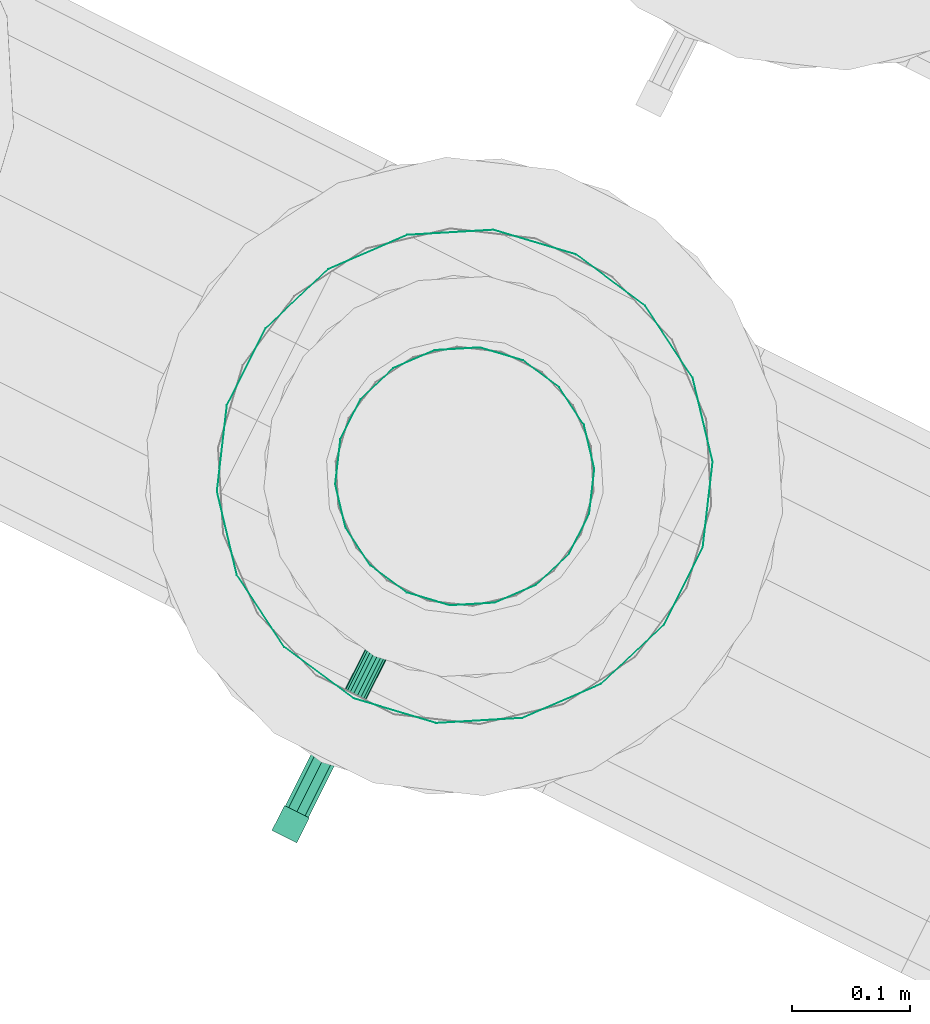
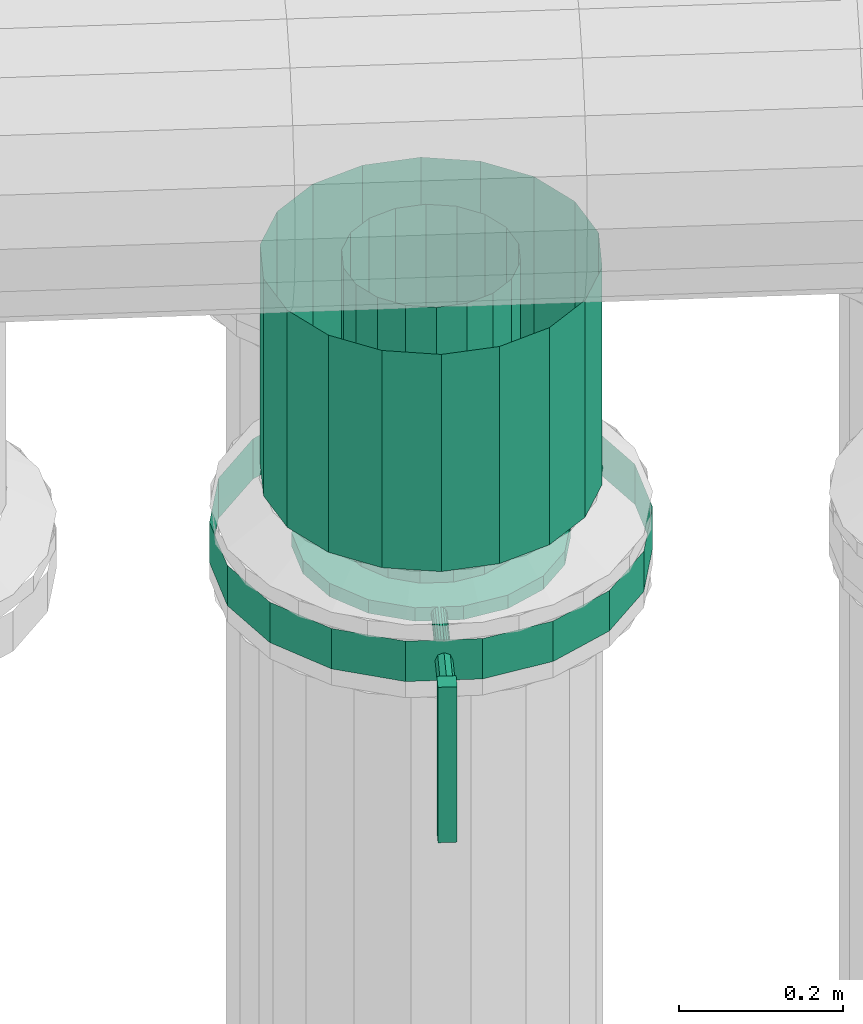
# One storey, part 85 of 152: 1 flow controller, 1 flow segment.
"""IFC2X3 building model written with IfcOpenShell, lengths in metres."""

from ifc_helpers import new_model, si_unit, derived_unit, direction, frame, origin, place, context, subcontext, project, spatial, face_set, surface_model, source, transform, mapped, material, type_object, type_shapes, element, save


model = new_model("IFC2X3")

# Units and contexts
model_context = context("Model", 3, precision=5.2338327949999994e-05, world=origin(), true_north=direction((0.0, 1.0)))
body_context = subcontext(model_context, "Body", "Model", "MODEL_VIEW")
ifc_project = project(units=[si_unit("LENGTHUNIT", "METRE"), si_unit("AREAUNIT", "SQUARE_METRE"), si_unit("VOLUMEUNIT", "CUBIC_METRE"), si_unit("MASSUNIT", "GRAM", prefix="KILO"), si_unit("PLANEANGLEUNIT", "RADIAN"), derived_unit("THERMALTRANSMITTANCEUNIT", [(si_unit("MASSUNIT", "GRAM", prefix="KILO"), 1), (si_unit("THERMODYNAMICTEMPERATUREUNIT", "KELVIN"), -1), (si_unit("TIMEUNIT", "SECOND"), -3)])], contexts=[model_context])

# Site, building, storey
site_placement = place(None, frame((0.0, 0.0, 0.0), z_axis=(0.0, 0.0, 1.0), x_axis=(0.8939966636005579, -0.4480736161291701, 0.0)))
site = spatial("IfcSite", under=ifc_project, at=site_placement, Name="Default", CompositionType="ELEMENT")
building_placement = place(site_placement, origin())
building = spatial("IfcBuilding", under=site, at=building_placement, CompositionType="ELEMENT")
storey_placement = place(building_placement, frame((0.0, 0.0, 2.7499999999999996)))
storey = spatial("IfcBuildingStorey", under=building, at=storey_placement, Name="1. Obergeschoss", CompositionType="ELEMENT", Elevation=2.7499999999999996)

# Flow controller
ifc_material = material(Name="IfcSurfaceStyle #9317")
distribution_element_type_1 = type_object("IfcDistributionElementType", Name="Zwischenflanschklappe 243412:Zwischenflanschklappe 243412", material=ifc_material)
shared_shape_1 = source(origin(), body_context, "Body", "SurfaceModel", [
    surface_model("IfcFaceBasedSurfaceModel", [(6.576064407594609, 7.010708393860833, 4.741522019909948), (6.576064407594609, 7.010708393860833, 4.9723720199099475), (6.59956440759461, 7.010708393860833, 4.9723720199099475), (6.59956440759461, 7.010708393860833, 4.741522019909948), (6.59956440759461, 6.987208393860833, 4.9723720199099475), (6.59956440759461, 6.987208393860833, 4.741522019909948), (6.576064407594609, 6.987208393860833, 4.9723720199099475), (6.576064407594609, 6.987208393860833, 4.741522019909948), (6.705314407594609, 7.3272083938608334, 4.930622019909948), (6.698228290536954, 7.367395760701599, 4.930622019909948), (6.698228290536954, 7.367395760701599, 4.9506220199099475), (6.705314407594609, 7.3272083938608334, 4.9506220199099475), (6.677824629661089, 7.402735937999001, 4.930622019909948), (6.677824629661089, 7.402735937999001, 4.9506220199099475), (6.646564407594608, 7.428966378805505, 4.930622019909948), (6.646564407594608, 7.428966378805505, 4.9506220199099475), (6.608218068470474, 7.442923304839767, 4.930622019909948), (6.608218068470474, 7.442923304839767, 4.9506220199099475), (6.567410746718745, 7.442923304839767, 4.930622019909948), (6.567410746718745, 7.442923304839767, 4.9506220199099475), (6.529064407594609, 7.428966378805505, 4.930622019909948), (6.529064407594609, 7.428966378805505, 4.9506220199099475), (6.497804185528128, 7.402735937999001, 4.930622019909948), (6.497804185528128, 7.402735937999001, 4.9506220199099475), (6.477400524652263, 7.367395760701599, 4.930622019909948), (6.477400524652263, 7.367395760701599, 4.9506220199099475), (6.47031440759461, 7.3272083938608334, 4.930622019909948), (6.47031440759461, 7.3272083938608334, 4.9506220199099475), (6.477400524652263, 7.287021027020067, 4.930622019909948), (6.477400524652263, 7.287021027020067, 4.9506220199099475), (6.497804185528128, 7.251680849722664, 4.930622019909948), (6.497804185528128, 7.251680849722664, 4.9506220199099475), (6.529064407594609, 7.22545040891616, 4.930622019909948), (6.529064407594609, 7.22545040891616, 4.9506220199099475), (6.567410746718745, 7.211493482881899, 4.930622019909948), (6.567410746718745, 7.211493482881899, 4.9506220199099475), (6.608218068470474, 7.211493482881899, 4.930622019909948), (6.608218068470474, 7.211493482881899, 4.9506220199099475), (6.646564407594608, 7.225450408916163, 4.930622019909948), (6.646564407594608, 7.225450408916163, 4.9506220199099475), (6.677824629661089, 7.251680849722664, 4.930622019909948), (6.677824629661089, 7.251680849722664, 4.9506220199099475), (6.698228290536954, 7.287021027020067, 4.930622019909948), (6.698228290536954, 7.287021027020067, 4.9506220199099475), (6.587814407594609, 7.3272083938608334, 4.930622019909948), (6.587814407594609, 7.3272083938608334, 4.9506220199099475), (6.757814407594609, 7.3272083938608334, 4.9506220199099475), (6.7475621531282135, 7.385351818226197, 4.9506220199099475), (6.7475621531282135, 7.385351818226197, 4.970622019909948), (6.757814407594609, 7.3272083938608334, 4.970622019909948), (6.718041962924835, 7.436482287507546, 4.9506220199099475), (6.718041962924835, 7.436482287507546, 4.970622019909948), (6.6728144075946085, 7.4744327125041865, 4.9506220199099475), (6.6728144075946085, 7.4744327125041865, 4.970622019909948), (6.617334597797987, 7.494625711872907, 4.9506220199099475), (6.617334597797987, 7.494625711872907, 4.970622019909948), (6.558294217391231, 7.494625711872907, 4.9506220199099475), (6.558294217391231, 7.494625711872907, 4.970622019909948), (6.502814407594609, 7.4744327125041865, 4.9506220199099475), (6.502814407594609, 7.4744327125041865, 4.970622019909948), (6.457586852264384, 7.436482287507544, 4.9506220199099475), (6.457586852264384, 7.436482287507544, 4.970622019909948), (6.428066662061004, 7.385351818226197, 4.9506220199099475), (6.428066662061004, 7.385351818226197, 4.970622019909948), (6.4178144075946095, 7.3272083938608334, 4.9506220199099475), (6.4178144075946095, 7.3272083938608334, 4.970622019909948), (6.428066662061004, 7.269064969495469, 4.9506220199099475), (6.428066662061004, 7.269064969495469, 4.970622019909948), (6.457586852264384, 7.21793450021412, 4.9506220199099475), (6.457586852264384, 7.21793450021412, 4.970622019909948), (6.502814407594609, 7.179984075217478, 4.9506220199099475), (6.502814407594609, 7.179984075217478, 4.970622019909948), (6.558294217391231, 7.159791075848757, 4.9506220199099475), (6.558294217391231, 7.159791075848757, 4.970622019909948), (6.6173345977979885, 7.159791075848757, 4.9506220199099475), (6.6173345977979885, 7.159791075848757, 4.970622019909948), (6.6728144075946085, 7.179984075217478, 4.9506220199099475), (6.6728144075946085, 7.179984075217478, 4.970622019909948), (6.718041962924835, 7.217934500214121, 4.9506220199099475), (6.718041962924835, 7.217934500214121, 4.970622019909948), (6.747562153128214, 7.269064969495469, 4.9506220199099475), (6.747562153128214, 7.269064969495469, 4.970622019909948), (6.587814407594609, 7.3272083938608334, 4.970622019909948), (6.705314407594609, 7.3272083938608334, 4.970622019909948), (6.698228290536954, 7.367395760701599, 4.970622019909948), (6.698228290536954, 7.367395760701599, 4.990622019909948), (6.705314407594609, 7.3272083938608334, 4.990622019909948), (6.677824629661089, 7.402735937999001, 4.970622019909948), (6.677824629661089, 7.402735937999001, 4.990622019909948), (6.646564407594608, 7.428966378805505, 4.970622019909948), (6.646564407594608, 7.428966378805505, 4.990622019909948), (6.608218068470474, 7.442923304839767, 4.970622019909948), (6.608218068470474, 7.442923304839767, 4.990622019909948), (6.567410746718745, 7.442923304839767, 4.970622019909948), (6.567410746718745, 7.442923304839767, 4.990622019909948), (6.529064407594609, 7.428966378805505, 4.970622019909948), (6.529064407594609, 7.428966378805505, 4.990622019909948), (6.497804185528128, 7.402735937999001, 4.970622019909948), (6.497804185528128, 7.402735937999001, 4.990622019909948), (6.477400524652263, 7.367395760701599, 4.970622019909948), (6.477400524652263, 7.367395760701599, 4.990622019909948), (6.47031440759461, 7.3272083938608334, 4.970622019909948), (6.47031440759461, 7.3272083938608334, 4.990622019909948), (6.477400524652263, 7.287021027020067, 4.970622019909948), (6.477400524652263, 7.287021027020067, 4.990622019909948), (6.497804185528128, 7.251680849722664, 4.970622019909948), (6.497804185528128, 7.251680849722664, 4.990622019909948), (6.529064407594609, 7.22545040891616, 4.970622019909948), (6.529064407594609, 7.22545040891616, 4.990622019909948), (6.567410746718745, 7.211493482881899, 4.970622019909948), (6.567410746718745, 7.211493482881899, 4.990622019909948), (6.608218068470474, 7.211493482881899, 4.970622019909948), (6.608218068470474, 7.211493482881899, 4.990622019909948), (6.646564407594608, 7.225450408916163, 4.970622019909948), (6.646564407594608, 7.225450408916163, 4.990622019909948), (6.677824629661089, 7.251680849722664, 4.970622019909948), (6.677824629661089, 7.251680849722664, 4.990622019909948), (6.698228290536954, 7.287021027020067, 4.970622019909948), (6.698228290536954, 7.287021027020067, 4.990622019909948), (6.587814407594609, 7.3272083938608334, 4.990622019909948), (6.59781440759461, 7.3272083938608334, 4.960622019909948), (6.597211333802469, 7.3272083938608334, 4.964042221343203), (6.597211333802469, 7.083958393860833, 4.964042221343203), (6.59781440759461, 7.083958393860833, 4.960622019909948), (6.595474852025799, 7.3272083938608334, 4.967049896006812), (6.595474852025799, 7.083958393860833, 4.967049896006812), (6.5928144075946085, 7.3272083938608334, 4.969282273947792), (6.5928144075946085, 7.083958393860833, 4.969282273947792), (6.589550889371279, 7.3272083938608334, 4.970470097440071), (6.589550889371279, 7.083958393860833, 4.970470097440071), (6.58607792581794, 7.3272083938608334, 4.97047009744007), (6.58607792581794, 7.083958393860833, 4.97047009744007), (6.582814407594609, 7.3272083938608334, 4.969282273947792), (6.582814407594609, 7.083958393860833, 4.969282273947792), (6.5801539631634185, 7.3272083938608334, 4.967049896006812), (6.5801539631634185, 7.083958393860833, 4.967049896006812), (6.578417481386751, 7.3272083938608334, 4.964042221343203), (6.578417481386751, 7.083958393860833, 4.964042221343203), (6.577814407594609, 7.3272083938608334, 4.960622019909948), (6.577814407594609, 7.083958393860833, 4.960622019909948), (6.578417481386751, 7.3272083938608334, 4.957201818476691), (6.578417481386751, 7.083958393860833, 4.957201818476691), (6.5801539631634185, 7.3272083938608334, 4.9541941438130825), (6.5801539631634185, 7.083958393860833, 4.9541941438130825), (6.582814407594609, 7.3272083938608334, 4.951961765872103), (6.582814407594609, 7.083958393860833, 4.951961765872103), (6.58607792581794, 7.3272083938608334, 4.950773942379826), (6.58607792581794, 7.083958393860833, 4.950773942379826), (6.589550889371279, 7.3272083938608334, 4.950773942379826), (6.589550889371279, 7.083958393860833, 4.950773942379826), (6.5928144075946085, 7.3272083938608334, 4.951961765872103), (6.5928144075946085, 7.083958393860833, 4.951961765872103), (6.595474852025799, 7.3272083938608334, 4.9541941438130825), (6.595474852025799, 7.083958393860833, 4.9541941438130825), (6.597211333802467, 7.3272083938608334, 4.957201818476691), (6.597211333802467, 7.083958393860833, 4.957201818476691), (6.587814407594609, 7.3272083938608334, 4.960622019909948), (6.587814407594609, 7.083958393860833, 4.960622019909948), (6.5987694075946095, 7.083958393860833, 4.960622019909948), (6.595560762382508, 7.083958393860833, 4.968368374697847), (6.595560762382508, 7.010708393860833, 4.968368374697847), (6.5987694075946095, 7.010708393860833, 4.960622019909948), (6.587814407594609, 7.083958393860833, 4.971577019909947), (6.587814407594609, 7.010708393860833, 4.971577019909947), (6.580068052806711, 7.083958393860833, 4.968368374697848), (6.580068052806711, 7.010708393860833, 4.968368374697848), (6.576859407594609, 7.083958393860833, 4.960622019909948), (6.576859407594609, 7.010708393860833, 4.960622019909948), (6.580068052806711, 7.083958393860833, 4.952875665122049), (6.580068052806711, 7.010708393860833, 4.952875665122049), (6.587814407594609, 7.083958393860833, 4.949667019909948), (6.587814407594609, 7.010708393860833, 4.949667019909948), (6.595560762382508, 7.083958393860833, 4.952875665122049), (6.595560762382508, 7.010708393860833, 4.952875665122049), (6.587814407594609, 7.010708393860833, 4.960622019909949), (6.857814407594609, 7.3272083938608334, 4.930622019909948), (6.841531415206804, 7.419553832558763, 4.930622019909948), (6.841531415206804, 7.419553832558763, 4.990622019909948), (6.857814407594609, 7.3272083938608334, 4.990622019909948), (6.794646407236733, 7.500761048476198, 4.930622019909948), (6.794646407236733, 7.500761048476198, 4.990622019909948), (6.722814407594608, 7.561035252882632, 4.930622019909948), (6.722814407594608, 7.561035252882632, 4.990622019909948), (6.634699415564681, 7.593106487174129, 4.930622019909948), (6.634699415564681, 7.593106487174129, 4.990622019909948), (6.540929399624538, 7.593106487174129, 4.930622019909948), (6.540929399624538, 7.593106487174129, 4.990622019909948), (6.452814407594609, 7.561035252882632, 4.930622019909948), (6.452814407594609, 7.561035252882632, 4.990622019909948), (6.3809824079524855, 7.500761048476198, 4.930622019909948), (6.3809824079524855, 7.500761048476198, 4.990622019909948), (6.334097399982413, 7.419553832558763, 4.930622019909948), (6.334097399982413, 7.419553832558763, 4.990622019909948), (6.317814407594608, 7.3272083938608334, 4.930622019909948), (6.317814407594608, 7.3272083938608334, 4.990622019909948), (6.334097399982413, 7.234862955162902, 4.930622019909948), (6.334097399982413, 7.234862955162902, 4.990622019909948), (6.3809824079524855, 7.153655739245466, 4.930622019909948), (6.3809824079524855, 7.153655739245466, 4.990622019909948), (6.452814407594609, 7.093381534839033, 4.930622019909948), (6.452814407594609, 7.093381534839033, 4.990622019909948), (6.540929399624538, 7.061310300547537, 4.930622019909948), (6.540929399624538, 7.061310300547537, 4.990622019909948), (6.634699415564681, 7.061310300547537, 4.930622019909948), (6.634699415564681, 7.061310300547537, 4.990622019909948), (6.722814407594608, 7.093381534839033, 4.930622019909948), (6.722814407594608, 7.093381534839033, 4.990622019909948), (6.794646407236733, 7.153655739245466, 4.930622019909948), (6.794646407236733, 7.153655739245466, 4.990622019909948), (6.841531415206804, 7.234862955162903, 4.930622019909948), (6.841531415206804, 7.234862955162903, 4.990622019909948)], [face_set([[[0, 1, 2, 3]], [[3, 2, 4, 5]], [[5, 4, 6, 7]], [[7, 6, 1, 0]], [[0, 3, 5, 7]], [[6, 4, 2, 1]], [[8, 9, 10, 11]], [[9, 12, 13, 10]], [[12, 14, 15, 13]], [[14, 16, 17, 15]], [[16, 18, 19, 17]], [[18, 20, 21, 19]], [[20, 22, 23, 21]], [[22, 24, 25, 23]], [[24, 26, 27, 25]], [[26, 28, 29, 27]], [[28, 30, 31, 29]], [[30, 32, 33, 31]], [[32, 34, 35, 33]], [[34, 36, 37, 35]], [[36, 38, 39, 37]], [[38, 40, 41, 39]], [[40, 42, 43, 41]], [[42, 8, 11, 43]], [[44, 9, 8]], [[44, 12, 9]], [[44, 14, 12]], [[44, 16, 14]], [[44, 18, 16]], [[44, 20, 18]], [[44, 22, 20]], [[44, 24, 22]], [[44, 26, 24]], [[44, 28, 26]], [[44, 30, 28]], [[44, 32, 30]], [[44, 34, 32]], [[44, 36, 34]], [[44, 38, 36]], [[44, 40, 38]], [[44, 42, 40]], [[44, 8, 42]], [[45, 43, 11]], [[45, 41, 43]], [[45, 39, 41]], [[45, 37, 39]], [[45, 35, 37]], [[45, 33, 35]], [[45, 31, 33]], [[45, 29, 31]], [[45, 27, 29]], [[45, 25, 27]], [[45, 23, 25]], [[45, 21, 23]], [[45, 19, 21]], [[45, 17, 19]], [[45, 15, 17]], [[45, 13, 15]], [[45, 10, 13]], [[45, 11, 10]], [[46, 47, 48, 49]], [[47, 50, 51, 48]], [[50, 52, 53, 51]], [[52, 54, 55, 53]], [[54, 56, 57, 55]], [[56, 58, 59, 57]], [[58, 60, 61, 59]], [[60, 62, 63, 61]], [[62, 64, 65, 63]], [[64, 66, 67, 65]], [[66, 68, 69, 67]], [[68, 70, 71, 69]], [[70, 72, 73, 71]], [[72, 74, 75, 73]], [[74, 76, 77, 75]], [[76, 78, 79, 77]], [[78, 80, 81, 79]], [[80, 46, 49, 81]], [[45, 47, 46]], [[45, 50, 47]], [[45, 52, 50]], [[45, 54, 52]], [[45, 56, 54]], [[45, 58, 56]], [[45, 60, 58]], [[45, 62, 60]], [[45, 64, 62]], [[45, 66, 64]], [[45, 68, 66]], [[45, 70, 68]], [[45, 72, 70]], [[45, 74, 72]], [[45, 76, 74]], [[45, 78, 76]], [[45, 80, 78]], [[45, 46, 80]], [[82, 81, 49]], [[82, 79, 81]], [[82, 77, 79]], [[82, 75, 77]], [[82, 73, 75]], [[82, 71, 73]], [[82, 69, 71]], [[82, 67, 69]], [[82, 65, 67]], [[82, 63, 65]], [[82, 61, 63]], [[82, 59, 61]], [[82, 57, 59]], [[82, 55, 57]], [[82, 53, 55]], [[82, 51, 53]], [[82, 48, 51]], [[82, 49, 48]], [[83, 84, 85, 86]], [[84, 87, 88, 85]], [[87, 89, 90, 88]], [[89, 91, 92, 90]], [[91, 93, 94, 92]], [[93, 95, 96, 94]], [[95, 97, 98, 96]], [[97, 99, 100, 98]], [[99, 101, 102, 100]], [[101, 103, 104, 102]], [[103, 105, 106, 104]], [[105, 107, 108, 106]], [[107, 109, 110, 108]], [[109, 111, 112, 110]], [[111, 113, 114, 112]], [[113, 115, 116, 114]], [[115, 117, 118, 116]], [[117, 83, 86, 118]], [[82, 84, 83]], [[82, 87, 84]], [[82, 89, 87]], [[82, 91, 89]], [[82, 93, 91]], [[82, 95, 93]], [[82, 97, 95]], [[82, 99, 97]], [[82, 101, 99]], [[82, 103, 101]], [[82, 105, 103]], [[82, 107, 105]], [[82, 109, 107]], [[82, 111, 109]], [[82, 113, 111]], [[82, 115, 113]], [[82, 117, 115]], [[82, 83, 117]], [[119, 118, 86]], [[119, 116, 118]], [[119, 114, 116]], [[119, 112, 114]], [[119, 110, 112]], [[119, 108, 110]], [[119, 106, 108]], [[119, 104, 106]], [[119, 102, 104]], [[119, 100, 102]], [[119, 98, 100]], [[119, 96, 98]], [[119, 94, 96]], [[119, 92, 94]], [[119, 90, 92]], [[119, 88, 90]], [[119, 85, 88]], [[119, 86, 85]], [[120, 121, 122, 123]], [[121, 124, 125, 122]], [[124, 126, 127, 125]], [[126, 128, 129, 127]], [[128, 130, 131, 129]], [[130, 132, 133, 131]], [[132, 134, 135, 133]], [[134, 136, 137, 135]], [[136, 138, 139, 137]], [[138, 140, 141, 139]], [[140, 142, 143, 141]], [[142, 144, 145, 143]], [[144, 146, 147, 145]], [[146, 148, 149, 147]], [[148, 150, 151, 149]], [[150, 152, 153, 151]], [[152, 154, 155, 153]], [[154, 120, 123, 155]], [[156, 121, 120]], [[156, 124, 121]], [[156, 126, 124]], [[156, 128, 126]], [[156, 130, 128]], [[156, 132, 130]], [[156, 134, 132]], [[156, 136, 134]], [[156, 138, 136]], [[156, 140, 138]], [[156, 142, 140]], [[156, 144, 142]], [[156, 146, 144]], [[156, 148, 146]], [[156, 150, 148]], [[156, 152, 150]], [[156, 154, 152]], [[156, 120, 154]], [[157, 155, 123]], [[157, 153, 155]], [[157, 151, 153]], [[157, 149, 151]], [[157, 147, 149]], [[157, 145, 147]], [[157, 143, 145]], [[157, 141, 143]], [[157, 139, 141]], [[157, 137, 139]], [[157, 135, 137]], [[157, 133, 135]], [[157, 131, 133]], [[157, 129, 131]], [[157, 127, 129]], [[157, 125, 127]], [[157, 122, 125]], [[157, 123, 122]], [[158, 159, 160, 161]], [[159, 162, 163, 160]], [[162, 164, 165, 163]], [[164, 166, 167, 165]], [[166, 168, 169, 167]], [[168, 170, 171, 169]], [[170, 172, 173, 171]], [[172, 158, 161, 173]], [[174, 173, 161]], [[174, 171, 173]], [[174, 169, 171]], [[174, 167, 169]], [[174, 165, 167]], [[174, 163, 165]], [[174, 160, 163]], [[174, 161, 160]], [[175, 176, 177, 178]], [[176, 179, 180, 177]], [[179, 181, 182, 180]], [[181, 183, 184, 182]], [[183, 185, 186, 184]], [[185, 187, 188, 186]], [[187, 189, 190, 188]], [[189, 191, 192, 190]], [[191, 193, 194, 192]], [[193, 195, 196, 194]], [[195, 197, 198, 196]], [[197, 199, 200, 198]], [[199, 201, 202, 200]], [[201, 203, 204, 202]], [[203, 205, 206, 204]], [[205, 207, 208, 206]], [[207, 209, 210, 208]], [[209, 175, 178, 210]]])]),
])
type_shapes(distribution_element_type_1, [shared_shape_1])
flow_controller_placement = place(storey_placement, frame((0.0, 0.0, -2.7499999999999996)))
element("IfcFlowController", 1, at=flow_controller_placement, inside=storey, type_object=distribution_element_type_1, material=ifc_material, Name="Zwischenflanschklappe", ObjectType="Zwischenflanschklappe", context=body_context, shape_type="MappedRepresentation", body=[
    mapped(shared_shape_1, transform((0.0, 0.0, 0.0), scale=1.0)),
])

# Flow segment
distribution_element_type_2 = type_object("IfcDistributionElementType", Name="Stahlrohr nach DIN 2448 245135:Stahlrohr nach DIN 2448 245135", material=ifc_material)
shared_shape_2 = source(origin(), body_context, "Body", "SurfaceModel", [
    surface_model("IfcFaceBasedSurfaceModel", [(6.5878144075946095, 7.217658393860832, 5.375028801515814), (6.550346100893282, 7.224265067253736, 5.375028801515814), (6.550346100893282, 7.224265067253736, 5.052622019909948), (6.5878144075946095, 7.217658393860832, 5.052622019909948), (6.517397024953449, 7.243288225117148, 5.375028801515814), (6.517397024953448, 7.243288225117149, 5.052622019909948), (6.492941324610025, 7.272433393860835, 5.375028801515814), (6.492941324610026, 7.272433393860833, 5.052622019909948), (6.479928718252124, 7.30818523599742, 5.375028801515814), (6.479928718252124, 7.30818523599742, 5.052622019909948), (6.479928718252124, 7.346231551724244, 5.375028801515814), (6.479928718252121, 7.346231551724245, 5.052622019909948), (6.492941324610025, 7.381983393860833, 5.375028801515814), (6.492941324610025, 7.381983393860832, 5.052622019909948), (6.5173970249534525, 7.411128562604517, 5.375028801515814), (6.517397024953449, 7.411128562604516, 5.052622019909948), (6.550346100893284, 7.430151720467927, 5.375028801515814), (6.550346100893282, 7.430151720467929, 5.052622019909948), (6.587814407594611, 7.436758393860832, 5.375028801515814), (6.5878144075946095, 7.436758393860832, 5.052622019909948), (6.625282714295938, 7.430151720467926, 5.375028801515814), (6.625282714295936, 7.430151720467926, 5.052622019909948), (6.658231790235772, 7.411128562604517, 5.375028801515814), (6.658231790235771, 7.411128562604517, 5.052622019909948), (6.6826874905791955, 7.381983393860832, 5.375028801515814), (6.682687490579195, 7.381983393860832, 5.052622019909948), (6.695700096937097, 7.346231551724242, 5.375028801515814), (6.695700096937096, 7.3462315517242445, 5.052622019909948), (6.695700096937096, 7.30818523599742, 5.375028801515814), (6.695700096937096, 7.30818523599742, 5.052622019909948), (6.682687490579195, 7.272433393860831, 5.375028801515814), (6.682687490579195, 7.272433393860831, 5.052622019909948), (6.658231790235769, 7.243288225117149, 5.375028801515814), (6.658231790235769, 7.243288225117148, 5.052622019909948), (6.6252827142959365, 7.224265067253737, 5.375028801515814), (6.625282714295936, 7.224265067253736, 5.052622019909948), (6.5878144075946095, 7.1176583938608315, 5.375028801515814), (6.51614408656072, 7.130295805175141, 5.375028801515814), (6.516144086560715, 7.130295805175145, 5.052622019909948), (6.5878144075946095, 7.117658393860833, 5.052622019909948), (6.4531182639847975, 7.166683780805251, 5.375028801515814), (6.453118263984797, 7.166683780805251, 5.052622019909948), (6.406338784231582, 7.222433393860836, 5.375028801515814), (6.40633878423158, 7.222433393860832, 5.052622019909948), (6.381447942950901, 7.290820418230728, 5.375028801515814), (6.381447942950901, 7.290820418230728, 5.052622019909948), (6.381447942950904, 7.363596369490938, 5.375028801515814), (6.381447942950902, 7.363596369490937, 5.052622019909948), (6.40633878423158, 7.4319833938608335, 5.375028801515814), (6.40633878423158, 7.431983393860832, 5.052622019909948), (6.4531182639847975, 7.487733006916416, 5.375028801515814), (6.453118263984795, 7.487733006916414, 5.052622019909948), (6.516144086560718, 7.52412098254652, 5.375028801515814), (6.516144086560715, 7.524120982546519, 5.052622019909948), (6.587814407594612, 7.536758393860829, 5.375028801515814), (6.587814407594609, 7.536758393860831, 5.052622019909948), (6.659484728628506, 7.5241209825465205, 5.375028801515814), (6.659484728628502, 7.524120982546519, 5.052622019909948), (6.722510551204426, 7.487733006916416, 5.375028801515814), (6.722510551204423, 7.487733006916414, 5.052622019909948), (6.769290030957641, 7.431983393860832, 5.375028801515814), (6.769290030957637, 7.431983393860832, 5.052622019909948), (6.79418087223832, 7.363596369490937, 5.375028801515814), (6.794180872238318, 7.363596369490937, 5.052622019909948), (6.794180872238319, 7.290820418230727, 5.375028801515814), (6.794180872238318, 7.290820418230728, 5.052622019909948), (6.769290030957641, 7.2224333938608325, 5.375028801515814), (6.769290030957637, 7.222433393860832, 5.052622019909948), (6.722510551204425, 7.16668378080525, 5.375028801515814), (6.722510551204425, 7.16668378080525, 5.052622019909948), (6.659484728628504, 7.130295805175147, 5.375028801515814), (6.659484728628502, 7.130295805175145, 5.052622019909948)], [face_set([[[0, 1, 2, 3]], [[1, 4, 5, 2]], [[4, 6, 7, 5]], [[6, 8, 9, 7]], [[8, 10, 11, 9]], [[10, 12, 13, 11]], [[12, 14, 15, 13]], [[14, 16, 17, 15]], [[16, 18, 19, 17]], [[18, 20, 21, 19]], [[20, 22, 23, 21]], [[22, 24, 25, 23]], [[24, 26, 27, 25]], [[26, 28, 29, 27]], [[28, 30, 31, 29]], [[30, 32, 33, 31]], [[32, 34, 35, 33]], [[34, 0, 3, 35]], [[36, 37, 38, 39]], [[37, 40, 41, 38]], [[40, 42, 43, 41]], [[42, 44, 45, 43]], [[44, 46, 47, 45]], [[46, 48, 49, 47]], [[48, 50, 51, 49]], [[50, 52, 53, 51]], [[52, 54, 55, 53]], [[54, 56, 57, 55]], [[56, 58, 59, 57]], [[58, 60, 61, 59]], [[60, 62, 63, 61]], [[62, 64, 65, 63]], [[64, 66, 67, 65]], [[66, 68, 69, 67]], [[68, 70, 71, 69]], [[70, 36, 39, 71]]])]),
])
type_shapes(distribution_element_type_2, [shared_shape_2])
flow_segment_placement = place(storey_placement, frame((0.0, 0.0, -2.7499999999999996)))
element("IfcFlowSegment", 2, at=flow_segment_placement, inside=storey, type_object=distribution_element_type_2, material=ifc_material, Name="Stahlrohr nach DIN 2448", ObjectType="Stahlrohr nach DIN 2448", context=body_context, shape_type="MappedRepresentation", body=[
    mapped(shared_shape_2, transform((0.0, 0.0, 0.0), scale=1.0)),
])

save(model, "model.ifc")
